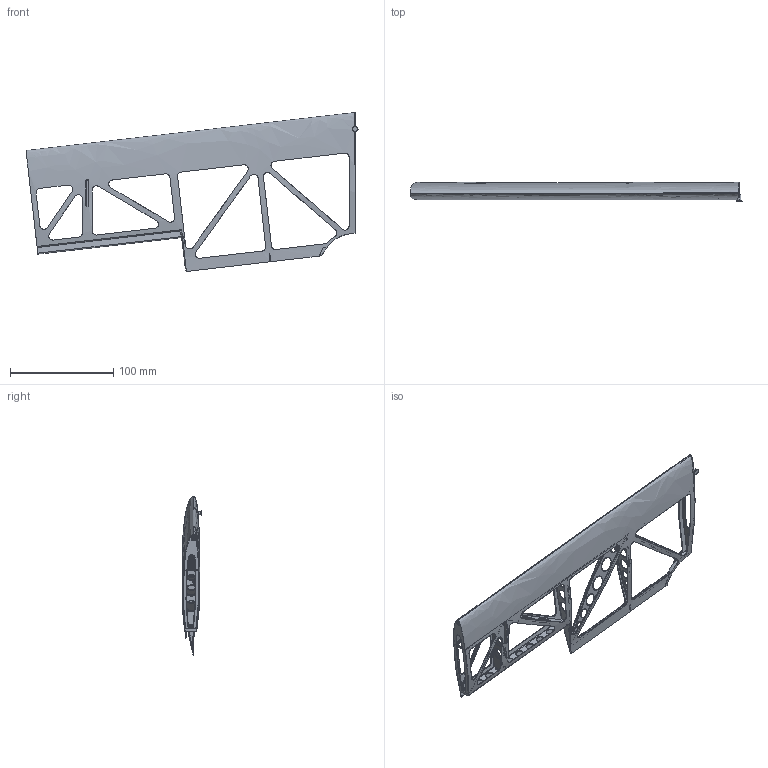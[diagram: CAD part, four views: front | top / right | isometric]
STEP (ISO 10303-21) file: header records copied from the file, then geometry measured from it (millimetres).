
FILE_DESCRIPTION (( 'STEP AP203' ), '1' );
FILE_NAME ('06-12-03-00-Upper Wing(NASA-0413).STEP', '2019-02-25T09:13:07', ( '' ), ( '' ), 'SwSTEP 2.0', 'SolidWorks 2014', '' );
FILE_SCHEMA (( 'CONFIG_CONTROL_DESIGN' ));
Products named in the file (1): 06-12-03-00-Upper Wing(NASA-0413)
Bounding box: 321.24 x 19.04 x 153.78 mm (x, y, z)
Volume: 36947.9 mm3; surface area: 99037.4 mm2
Topology: 1 solids, 2 shells, 970 faces, 2390 edges, 1395 vertices
Faces by surface type: bspline 350, cylinder 239, torus 222, plane 113, sphere 42, cone 4
Entity records: 49900 total; most frequent: CARTESIAN_POINT 29336, ORIENTED_EDGE 4730, DIRECTION 3781, EDGE_CURVE 2365, AXIS2_PLACEMENT_3D 1663, VERTEX_POINT 1393, EDGE_LOOP 1132, CIRCLE 1042
